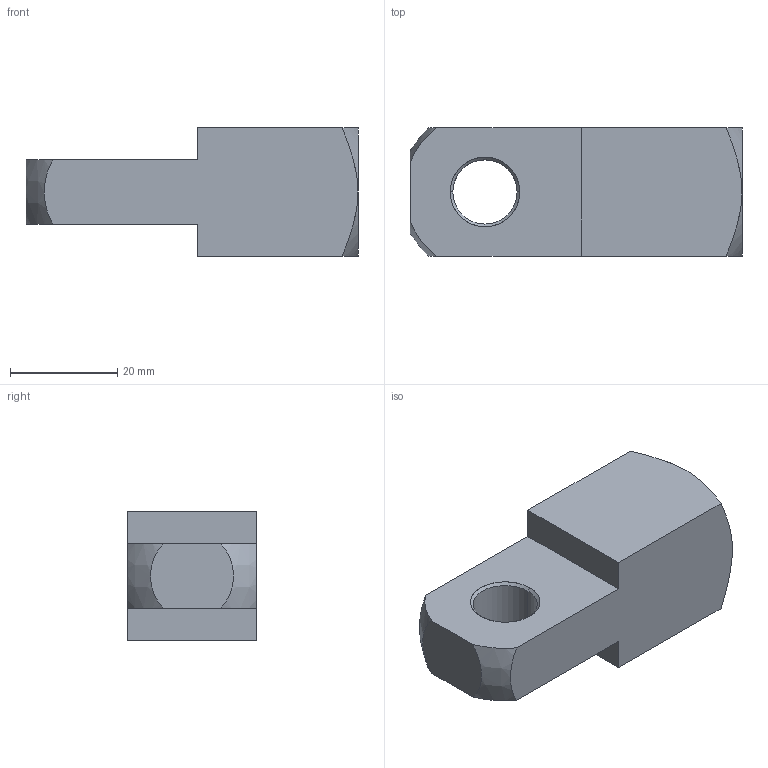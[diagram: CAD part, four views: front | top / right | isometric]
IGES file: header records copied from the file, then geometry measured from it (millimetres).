
Start section: SolidWorks IGES file using analytic representation for surfaces
Global section: file name: C:\Documents and Settings\IANO\My Documents\Wix and Auto CAD Work\CAD Models\Parametric Models\Wix Models\60000\65652_v2\65652_v2_IGES\65652.W0013.igs; native system: SolidWorks 2009; preprocessor: SolidWorks 2009; author: IANO; date: 140122.120930; units: millimetre
Bounding box: 62 x 24 x 24 mm (x, y, z)
Surface area: 7377.3 mm2 (no closed solid volume)
Topology: 0 solids, 0 shells, 31 faces, 464 edges, 462 vertices
Faces by surface type: revolution 18, bspline 13
